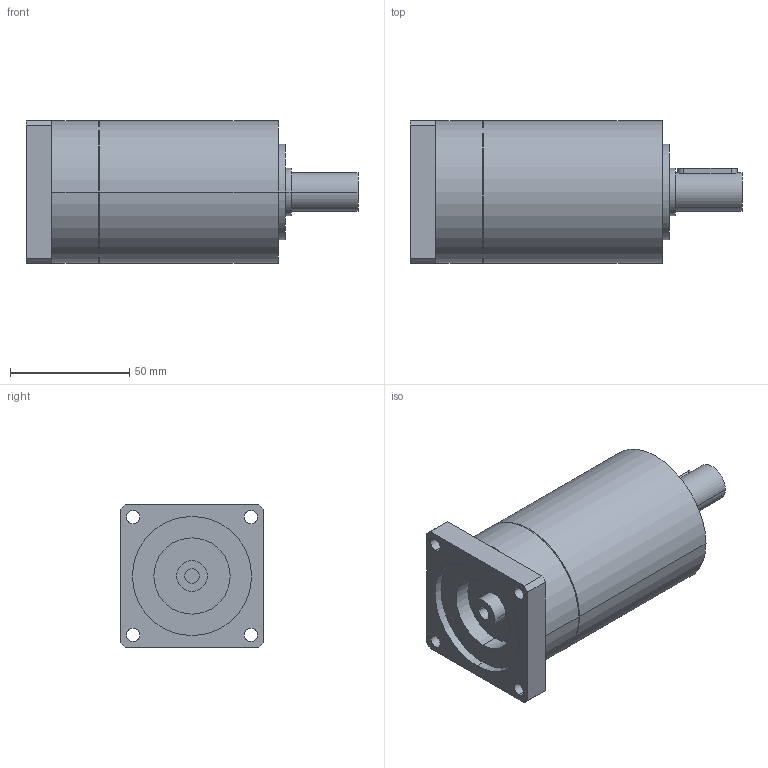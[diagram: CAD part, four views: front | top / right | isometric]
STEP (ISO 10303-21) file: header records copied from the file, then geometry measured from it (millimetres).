
FILE_DESCRIPTION(('CoCreate Modeling STEP Export'),'2;1');
FILE_NAME('GPR75_ig-9-12-16-20-24-30-36_16_B14_6_P20.stp','2014-08-25T16:04:48',(''),(''),'CoCreate Modeling STEP processor for AP214 (Solid Model)','CoCreate Modeling 16.00C 25-Feb-2009 (C) Parametric Technology GmbH','');
FILE_SCHEMA(('AUTOMOTIVE_DESIGN { 1 0 10303 214 1 1 1 1 }'));
Length unit declared in the file: millimetre
Products named in the file (2): GPR75_ig-9-12-16-20-24-30-36_16_B14_6_P20
Assembly tree (1 placements, depth 2):
  GPR75_ig-9-12-16-20-24-30-36_16_B14_6_P20
    GPR75_ig-9-12-16-20-24-30-36_16_B14_6_P20
Bounding box: 139.4 x 60 x 60 mm (x, y, z)
Volume: 303713.6 mm3; surface area: 33088.2 mm2
Topology: 1 solids, 1 shells, 70 faces, 189 edges, 133 vertices
Faces by surface type: cylinder 42, plane 22, cone 6
Entity records: 2028 total; most frequent: ORIENTED_EDGE 374, CARTESIAN_POINT 371, DIRECTION 270, EDGE_CURVE 187, VERTEX_POINT 133, AXIS2_PLACEMENT_3D 102, EDGE_LOOP 92, FACE_OUTER_BOUND 70
